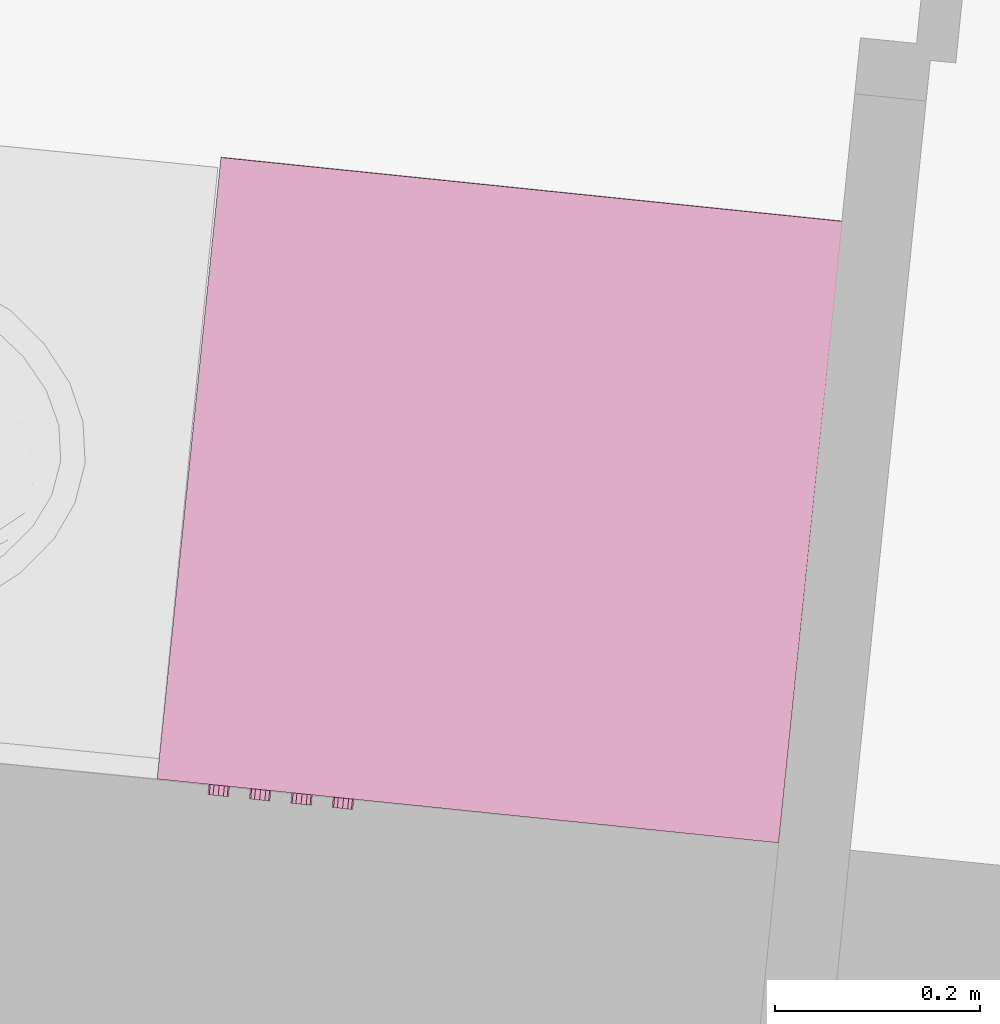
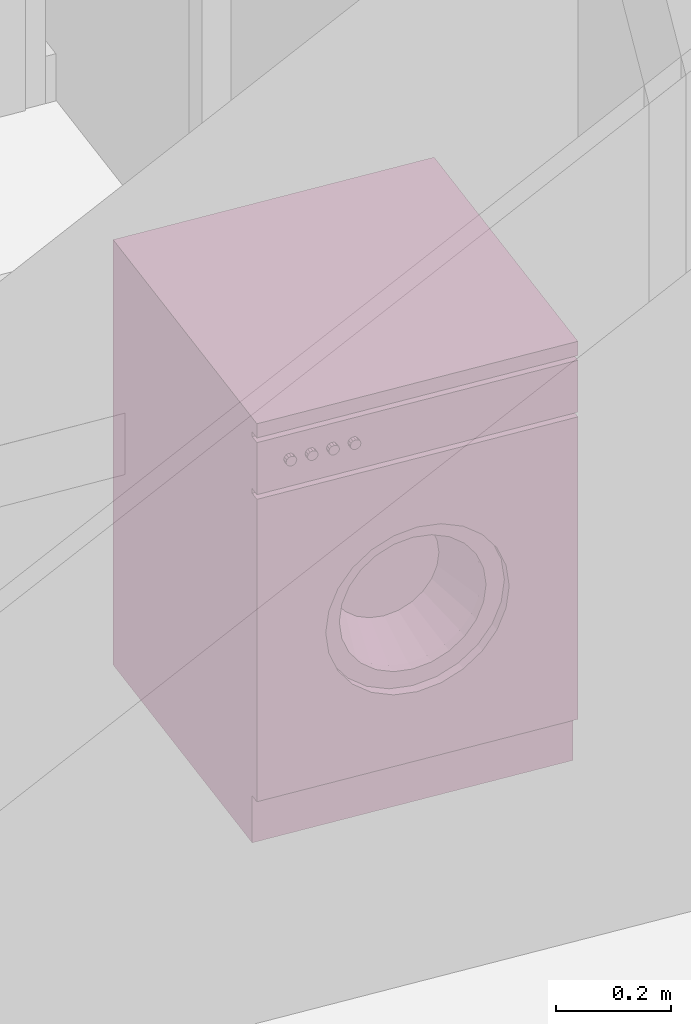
# One storey, part 136 of 171: 1 furnishing.
"""IFC2X3 building model written with IfcOpenShell, lengths in millimetres."""

from ifc_helpers import new_model, entity, si_unit, converted_unit, derived_unit, money_unit, direction, frame, origin_with_axes, place, context, subcontext, project, spatial, open_shell, faceted_brep, surface_model, source, transform, mapped, type_object, element, save


model = new_model("IFC2X3")

# Units and contexts
model_context = context("Model", 3, precision=0.01, world=origin_with_axes(), true_north=direction((0.0, 1.0)))
body_context = subcontext(model_context, "Body", "Model", "MODEL_VIEW")
ifc_project = project(units=[si_unit("LENGTHUNIT", "METRE", prefix="MILLI"), si_unit("AREAUNIT", "SQUARE_METRE"), si_unit("VOLUMEUNIT", "CUBIC_METRE"), converted_unit("PLANEANGLEUNIT", "DEGREE", entity("IfcPlaneAngleMeasure", 0.0174532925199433), si_unit("PLANEANGLEUNIT", "RADIAN"), dimensions=[0, 0, 0, 0, 0, 0, 0]), money_unit("USD"), converted_unit("TIMEUNIT", "Year", entity("IfcTimeMeasure", 31557600.0), si_unit("TIMEUNIT", "SECOND"), dimensions=[0, 0, 1, 0, 0, 0, 0]), si_unit("MASSUNIT", "GRAM", prefix="KILO"), si_unit("THERMODYNAMICTEMPERATUREUNIT", "DEGREE_CELSIUS"), si_unit("LUMINOUSINTENSITYUNIT", "LUMEN"), si_unit("ENERGYUNIT", "JOULE", prefix="MEGA"), derived_unit("THERMALCONDUCTANCEUNIT", [(si_unit("POWERUNIT", "WATT"), 1), (si_unit("LENGTHUNIT", "METRE"), -1), (si_unit("THERMODYNAMICTEMPERATUREUNIT", "KELVIN"), -1)]), derived_unit("SPECIFICHEATCAPACITYUNIT", [(si_unit("ENERGYUNIT", "JOULE"), 1), (si_unit("MASSUNIT", "GRAM", prefix="KILO"), -1), (si_unit("THERMODYNAMICTEMPERATUREUNIT", "KELVIN"), -1)]), derived_unit("MASSDENSITYUNIT", [(si_unit("MASSUNIT", "GRAM", prefix="KILO"), 1), (si_unit("VOLUMEUNIT", "CUBIC_METRE"), -1)])], contexts=[model_context])

# Site, building, storey
site_placement = place(None, origin_with_axes())
site = spatial("IfcSite", under=ifc_project, at=site_placement, Name="Site", CompositionType="ELEMENT")
building_placement = place(site_placement, origin_with_axes())
building = spatial("IfcBuilding", under=site, at=building_placement, Name="Bâtiment", CompositionType="ELEMENT")
storey_placement = place(building_placement, frame((0.0, 0.0, 3000.0), z_axis=(0.0, 0.0, 1.0), x_axis=(1.0, 0.0, 0.0)))
storey = spatial("IfcBuildingStorey", under=building, at=storey_placement, Name="rdc", CompositionType="ELEMENT", Elevation=3000.0)

# Furnishing
furnishing_element_type = type_object("IfcFurnishingElementType", Name="Machine à laver")
shared_shape = source(origin_with_axes(), body_context, "Body", "SurfaceModel", [
    faceted_brep([(0.0, 20.33333333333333, 100.0), (610.0, 20.33333333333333, 100.0), (610.0, 0.0, 100.0), (0.0, 0.0, 100.0), (0.0, 20.33333333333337, 740.0), (610.0, 20.33333333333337, 740.0), (479.2857142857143, 20.33333333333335, 420.0000000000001), (473.3470725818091, 20.33333333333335, 465.1084621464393), (455.935856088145, 20.33333333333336, 507.1428571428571), (428.2386104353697, 20.33333333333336, 543.2386104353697), (392.1428571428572, 20.33333333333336, 570.935856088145), (350.1084621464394, 20.33333333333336, 588.347072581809), (305.0000000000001, 20.33333333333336, 594.2857142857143), (259.8915378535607, 20.33333333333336, 588.347072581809), (217.8571428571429, 20.33333333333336, 570.9358560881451), (181.7613895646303, 20.33333333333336, 543.2386104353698), (154.0641439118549, 20.33333333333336, 507.1428571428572), (136.6529274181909, 20.33333333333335, 465.1084621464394), (130.7142857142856, 20.33333333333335, 420.0000000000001), (136.6529274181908, 20.33333333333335, 374.8915378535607), (154.0641439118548, 20.33333333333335, 332.8571428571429), (181.7613895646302, 20.33333333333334, 296.7613895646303), (217.8571428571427, 20.33333333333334, 269.064143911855), (259.8915378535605, 20.33333333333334, 251.6529274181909), (304.9999999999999, 20.33333333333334, 245.7142857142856), (350.1084621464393, 20.33333333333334, 251.6529274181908), (392.1428571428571, 20.33333333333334, 269.0641439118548), (428.2386104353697, 20.33333333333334, 296.7613895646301), (455.935856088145, 20.33333333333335, 332.8571428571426), (473.3470725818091, 20.33333333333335, 374.8915378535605), (610.0, 0.0, 740.0), (0.0, 0.0, 740.0), (479.2857142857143, 0.0, 420.0000000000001), (473.3470725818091, 0.0, 374.8915378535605), (455.935856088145, 0.0, 332.8571428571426), (428.2386104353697, 0.0, 296.7613895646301), (392.1428571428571, 0.0, 269.0641439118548), (350.1084621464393, 0.0, 251.6529274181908), (304.9999999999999, 0.0, 245.7142857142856), (259.8915378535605, 0.0, 251.6529274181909), (217.8571428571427, 0.0, 269.064143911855), (181.7613895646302, 0.0, 296.7613895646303), (154.0641439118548, 0.0, 332.8571428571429), (136.6529274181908, 0.0, 374.8915378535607), (130.7142857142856, 0.0, 420.0000000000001), (136.6529274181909, 0.0, 465.1084621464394), (154.0641439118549, 0.0, 507.1428571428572), (181.7613895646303, 0.0, 543.2386104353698), (217.8571428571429, 0.0, 570.9358560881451), (259.8915378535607, 0.0, 588.347072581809), (305.0000000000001, 0.0, 594.2857142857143), (350.1084621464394, 0.0, 588.347072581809), (392.1428571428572, 0.0, 570.935856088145), (428.2386104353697, 0.0, 543.2386104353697), (455.935856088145, 0.0, 507.1428571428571), (473.3470725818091, 0.0, 465.1084621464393)], [[[0, 1, 2, 3]], [[0, 4, 5, 1], [6, 7, 8, 9, 10, 11, 12, 13, 14, 15, 16, 17, 18, 19, 20, 21, 22, 23, 24, 25, 26, 27, 28, 29]], [[1, 5, 30, 2]], [[3, 2, 30, 31], [32, 33, 34, 35, 36, 37, 38, 39, 40, 41, 42, 43, 44, 45, 46, 47, 48, 49, 50, 51, 52, 53, 54, 55]], [[4, 0, 3, 31]], [[5, 4, 31, 30]], [[7, 6, 32, 55]], [[8, 7, 55, 54]], [[9, 8, 54, 53]], [[10, 9, 53, 52]], [[11, 10, 52, 51]], [[12, 11, 51, 50]], [[13, 12, 50, 49]], [[14, 13, 49, 48]], [[15, 14, 48, 47]], [[16, 15, 47, 46]], [[17, 16, 46, 45]], [[18, 17, 45, 44]], [[19, 18, 44, 43]], [[20, 19, 43, 42]], [[21, 20, 42, 41]], [[22, 21, 41, 40]], [[23, 22, 40, 39]], [[24, 23, 39, 38]], [[25, 24, 38, 37]], [[26, 25, 37, 36]], [[27, 26, 36, 35]], [[28, 27, 35, 34]], [[29, 28, 34, 33]], [[6, 29, 33, 32]]]),
    faceted_brep([(479.2857142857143, 40.66666666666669, 420.0000000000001), (473.3470725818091, 40.66666666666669, 465.1084621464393), (473.3470725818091, 20.33333333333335, 465.1084621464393), (479.2857142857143, 20.33333333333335, 420.0000000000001), (473.3470725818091, 40.66666666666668, 374.8915378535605), (455.935856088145, 40.66666666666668, 332.8571428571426), (428.2386104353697, 40.66666666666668, 296.7613895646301), (392.1428571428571, 40.66666666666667, 269.0641439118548), (350.1084621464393, 40.66666666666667, 251.6529274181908), (304.9999999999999, 40.66666666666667, 245.7142857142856), (259.8915378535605, 40.66666666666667, 251.6529274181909), (217.8571428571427, 40.66666666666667, 269.064143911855), (181.7613895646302, 40.66666666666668, 296.7613895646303), (154.0641439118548, 40.66666666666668, 332.8571428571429), (136.6529274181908, 40.66666666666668, 374.8915378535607), (130.7142857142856, 40.66666666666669, 420.0000000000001), (136.6529274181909, 40.66666666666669, 465.1084621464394), (154.0641439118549, 40.66666666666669, 507.1428571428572), (181.7613895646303, 40.66666666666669, 543.2386104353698), (217.8571428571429, 40.66666666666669, 570.9358560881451), (259.8915378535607, 40.66666666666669, 588.347072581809), (305.0000000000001, 40.66666666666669, 594.2857142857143), (350.1084621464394, 40.66666666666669, 588.347072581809), (392.1428571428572, 40.66666666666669, 570.935856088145), (428.2386104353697, 40.66666666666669, 543.2386104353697), (455.935856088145, 40.66666666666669, 507.1428571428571), (444.4285714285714, 40.66666666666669, 420.0000000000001), (439.6776580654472, 40.66666666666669, 456.0867697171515), (425.748684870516, 40.66666666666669, 489.7142857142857), (403.5908883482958, 40.66666666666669, 518.5908883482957), (374.7142857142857, 40.66666666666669, 540.748684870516), (341.0867697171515, 40.66666666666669, 554.6776580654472), (305.0000000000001, 40.66666666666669, 559.4285714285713), (268.9132302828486, 40.66666666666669, 554.6776580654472), (235.2857142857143, 40.66666666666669, 540.7486848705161), (206.4091116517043, 40.66666666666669, 518.5908883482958), (184.251315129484, 40.66666666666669, 489.7142857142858), (170.3223419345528, 40.66666666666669, 456.0867697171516), (165.5714285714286, 40.66666666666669, 420.0000000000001), (170.3223419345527, 40.66666666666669, 383.9132302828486), (184.2513151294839, 40.66666666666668, 350.2857142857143), (206.4091116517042, 40.66666666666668, 321.4091116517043), (235.2857142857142, 40.66666666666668, 299.251315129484), (268.9132302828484, 40.66666666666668, 285.3223419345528), (304.9999999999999, 40.66666666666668, 280.5714285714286), (341.0867697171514, 40.66666666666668, 285.3223419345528), (374.7142857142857, 40.66666666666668, 299.2513151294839), (403.5908883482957, 40.66666666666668, 321.4091116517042), (425.748684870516, 40.66666666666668, 350.2857142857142), (439.6776580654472, 40.66666666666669, 383.9132302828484), (455.935856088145, 20.33333333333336, 507.1428571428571), (428.2386104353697, 20.33333333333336, 543.2386104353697), (392.1428571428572, 20.33333333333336, 570.935856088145), (350.1084621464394, 20.33333333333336, 588.347072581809), (305.0000000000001, 20.33333333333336, 594.2857142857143), (259.8915378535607, 20.33333333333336, 588.347072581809), (217.8571428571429, 20.33333333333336, 570.9358560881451), (181.7613895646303, 20.33333333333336, 543.2386104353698), (154.0641439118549, 20.33333333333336, 507.1428571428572), (136.6529274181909, 20.33333333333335, 465.1084621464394), (130.7142857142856, 20.33333333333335, 420.0000000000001), (136.6529274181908, 20.33333333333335, 374.8915378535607), (154.0641439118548, 20.33333333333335, 332.8571428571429), (181.7613895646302, 20.33333333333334, 296.7613895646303), (217.8571428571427, 20.33333333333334, 269.064143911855), (259.8915378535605, 20.33333333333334, 251.6529274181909), (304.9999999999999, 20.33333333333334, 245.7142857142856), (350.1084621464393, 20.33333333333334, 251.6529274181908), (392.1428571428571, 20.33333333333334, 269.0641439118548), (428.2386104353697, 20.33333333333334, 296.7613895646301), (455.935856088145, 20.33333333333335, 332.8571428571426), (473.3470725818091, 20.33333333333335, 374.8915378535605), (444.4285714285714, 20.33333333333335, 420.0000000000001), (439.6776580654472, 20.33333333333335, 383.9132302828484), (425.748684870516, 20.33333333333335, 350.2857142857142), (403.5908883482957, 20.33333333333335, 321.4091116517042), (374.7142857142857, 20.33333333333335, 299.2513151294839), (341.0867697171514, 20.33333333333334, 285.3223419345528), (304.9999999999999, 20.33333333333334, 280.5714285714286), (268.9132302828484, 20.33333333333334, 285.3223419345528), (235.2857142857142, 20.33333333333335, 299.251315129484), (206.4091116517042, 20.33333333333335, 321.4091116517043), (184.2513151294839, 20.33333333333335, 350.2857142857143), (170.3223419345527, 20.33333333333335, 383.9132302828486), (165.5714285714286, 20.33333333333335, 420.0000000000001), (170.3223419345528, 20.33333333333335, 456.0867697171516), (184.251315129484, 20.33333333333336, 489.7142857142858), (206.4091116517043, 20.33333333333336, 518.5908883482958), (235.2857142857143, 20.33333333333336, 540.7486848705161), (268.9132302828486, 20.33333333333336, 554.6776580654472), (305.0000000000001, 20.33333333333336, 559.4285714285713), (341.0867697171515, 20.33333333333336, 554.6776580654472), (374.7142857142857, 20.33333333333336, 540.748684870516), (403.5908883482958, 20.33333333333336, 518.5908883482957), (425.748684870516, 20.33333333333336, 489.7142857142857), (439.6776580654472, 20.33333333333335, 456.0867697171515)], [[[0, 1, 2, 3]], [[0, 4, 5, 6, 7, 8, 9, 10, 11, 12, 13, 14, 15, 16, 17, 18, 19, 20, 21, 22, 23, 24, 25, 1], [26, 27, 28, 29, 30, 31, 32, 33, 34, 35, 36, 37, 38, 39, 40, 41, 42, 43, 44, 45, 46, 47, 48, 49]], [[1, 25, 50, 2]], [[3, 2, 50, 51, 52, 53, 54, 55, 56, 57, 58, 59, 60, 61, 62, 63, 64, 65, 66, 67, 68, 69, 70, 71], [72, 73, 74, 75, 76, 77, 78, 79, 80, 81, 82, 83, 84, 85, 86, 87, 88, 89, 90, 91, 92, 93, 94, 95]], [[4, 0, 3, 71]], [[5, 4, 71, 70]], [[6, 5, 70, 69]], [[7, 6, 69, 68]], [[8, 7, 68, 67]], [[9, 8, 67, 66]], [[10, 9, 66, 65]], [[11, 10, 65, 64]], [[12, 11, 64, 63]], [[13, 12, 63, 62]], [[14, 13, 62, 61]], [[15, 14, 61, 60]], [[16, 15, 60, 59]], [[17, 16, 59, 58]], [[18, 17, 58, 57]], [[19, 18, 57, 56]], [[20, 19, 56, 55]], [[21, 20, 55, 54]], [[22, 21, 54, 53]], [[23, 22, 53, 52]], [[24, 23, 52, 51]], [[25, 24, 51, 50]], [[27, 26, 72, 95]], [[28, 27, 95, 94]], [[29, 28, 94, 93]], [[30, 29, 93, 92]], [[31, 30, 92, 91]], [[32, 31, 91, 90]], [[33, 32, 90, 89]], [[34, 33, 89, 88]], [[35, 34, 88, 87]], [[36, 35, 87, 86]], [[37, 36, 86, 85]], [[38, 37, 85, 84]], [[39, 38, 84, 83]], [[40, 39, 83, 82]], [[41, 40, 82, 81]], [[42, 41, 81, 80]], [[43, 42, 80, 79]], [[44, 43, 79, 78]], [[45, 44, 78, 77]], [[46, 45, 77, 76]], [[47, 46, 76, 75]], [[48, 47, 75, 74]], [[49, 48, 74, 73]], [[26, 49, 73, 72]]]),
    surface_model("IfcShellBasedSurfaceModel", [(268.9132302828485, 40.6666666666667, 554.6776580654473), (305.0, 40.6666666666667, 559.4285714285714), (305.0, 142.3333333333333, 524.5714285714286), (277.9349227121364, 142.3333333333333, 521.0082435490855), (341.0867697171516, 40.6666666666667, 554.6776580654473), (332.0650772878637, 142.3333333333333, 521.0082435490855), (357.2857142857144, 142.3333333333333, 510.5615136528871), (378.9431662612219, 142.3333333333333, 493.9431662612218), (395.5615136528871, 142.3333333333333, 472.2857142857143), (406.0082435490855, 142.3333333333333, 447.0650772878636), (409.5714285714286, 142.3333333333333, 420.0), (406.0082435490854, 142.3333333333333, 392.9349227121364), (395.561513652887, 142.3333333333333, 367.7142857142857), (378.9431662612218, 142.3333333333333, 346.0568337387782), (357.2857142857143, 142.3333333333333, 329.438486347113), (332.0650772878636, 142.3333333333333, 318.9917564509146), (304.9999999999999, 142.3333333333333, 315.4285714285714), (277.9349227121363, 142.3333333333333, 318.9917564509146), (252.7142857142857, 142.3333333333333, 329.438486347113), (231.0568337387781, 142.3333333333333, 346.0568337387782), (214.4384863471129, 142.3333333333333, 367.7142857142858), (203.9917564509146, 142.3333333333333, 392.9349227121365), (200.4285714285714, 142.3333333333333, 420.0000000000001), (203.9917564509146, 142.3333333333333, 447.0650772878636), (214.438486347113, 142.3333333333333, 472.2857142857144), (231.0568337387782, 142.3333333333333, 493.9431662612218), (252.7142857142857, 142.3333333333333, 510.5615136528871), (235.2857142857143, 40.6666666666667, 540.7486848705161), (374.7142857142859, 40.6666666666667, 540.7486848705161), (403.5908883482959, 40.66666666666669, 518.5908883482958), (425.7486848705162, 40.66666666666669, 489.7142857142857), (439.6776580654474, 40.66666666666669, 456.0867697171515), (444.4285714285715, 40.66666666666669, 419.9999999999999), (439.6776580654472, 40.66666666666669, 383.9132302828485), (425.748684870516, 40.66666666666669, 350.2857142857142), (403.5908883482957, 40.66666666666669, 321.4091116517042), (374.7142857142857, 40.66666666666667, 299.2513151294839), (341.0867697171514, 40.66666666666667, 285.3223419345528), (304.9999999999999, 40.66666666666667, 280.5714285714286), (268.9132302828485, 40.66666666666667, 285.3223419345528), (235.2857142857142, 40.66666666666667, 299.251315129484), (206.4091116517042, 40.66666666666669, 321.4091116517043), (184.2513151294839, 40.66666666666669, 350.2857142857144), (170.3223419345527, 40.66666666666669, 383.9132302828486), (165.5714285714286, 40.66666666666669, 420.0000000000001), (170.3223419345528, 40.66666666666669, 456.0867697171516), (184.251315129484, 40.66666666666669, 489.7142857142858), (206.4091116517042, 40.66666666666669, 518.5908883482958)], [open_shell([[[0, 1, 2, 3]], [[1, 4, 5, 2]], [[2, 5, 6, 7, 8, 9, 10, 11, 12, 13, 14, 15, 16, 17, 18, 19, 20, 21, 22, 23, 24, 25, 26, 3]], [[27, 0, 3, 26]], [[4, 28, 6, 5]], [[28, 29, 7, 6]], [[29, 30, 8, 7]], [[30, 31, 9, 8]], [[31, 32, 10, 9]], [[32, 33, 11, 10]], [[33, 34, 12, 11]], [[34, 35, 13, 12]], [[35, 36, 14, 13]], [[36, 37, 15, 14]], [[37, 38, 16, 15]], [[38, 39, 17, 16]], [[39, 40, 18, 17]], [[40, 41, 19, 18]], [[41, 42, 20, 19]], [[42, 43, 21, 20]], [[43, 44, 22, 21]], [[44, 45, 23, 22]], [[45, 46, 24, 23]], [[46, 47, 25, 24]], [[47, 27, 26, 25]]])]),
    surface_model("IfcShellBasedSurfaceModel", [(0.0, 20.33333333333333, 100.0), (0.0, 20.33333333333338, 870.0), (0.0, 610.0, 870.0), (0.0, 610.0, 99.99999999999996)], [open_shell([[[0, 1, 2, 3]]])]),
    surface_model("IfcShellBasedSurfaceModel", [(610.0, 20.33333333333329, 100.0), (610.0, 20.33333333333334, 870.0), (610.0, 610.0, 870.0), (610.0, 610.0, 99.99999999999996)], [open_shell([[[0, 1, 2, 3]]])]),
    surface_model("IfcShellBasedSurfaceModel", [(0.0, 610.0, 100.0), (0.0, 610.0, 870.0), (610.0, 610.0, 870.0), (610.0, 610.0, 100.0)], [open_shell([[[0, 1, 2, 3]]])]),
    faceted_brep([(0.0, 20.33333333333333, 0.0), (610.0, 20.33333333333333, 0.0), (610.0, 20.33333333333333, 100.0), (0.0, 20.33333333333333, 100.0), (0.0, 610.3333333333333, 0.0), (610.0, 610.3333333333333, 0.0), (610.0, 610.3333333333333, 100.0), (0.0, 610.3333333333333, 100.0)], [[[0, 1, 2, 3]], [[0, 4, 5, 1]], [[1, 5, 6, 2]], [[3, 2, 6, 7]], [[4, 0, 3, 7]], [[5, 4, 7, 6]]]),
    faceted_brep([(0.0, 20.33333333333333, 750.0), (610.0, 20.33333333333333, 750.0), (610.0, 0.0, 750.0), (0.0, 0.0, 750.0), (0.0, 20.33333333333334, 860.0), (610.0, 20.33333333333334, 860.0), (610.0, 0.0, 860.0), (0.0, 0.0, 860.0)], [[[0, 1, 2, 3]], [[0, 4, 5, 1]], [[1, 5, 6, 2]], [[3, 2, 6, 7]], [[4, 0, 3, 7]], [[5, 4, 7, 6]]]),
    surface_model("IfcShellBasedSurfaceModel", [(0.0, 20.33333333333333, 739.8333333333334), (0.0, 20.33333333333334, 869.8333333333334), (610.0, 20.33333333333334, 869.8333333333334), (610.0, 20.33333333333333, 739.8333333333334)], [open_shell([[[0, 1, 2, 3]]])]),
    faceted_brep([(0.0, 0.0, 870.0), (610.0, 0.0, 870.0), (610.0, 0.0, 900.0), (0.0, 0.0, 900.0), (0.0, 610.0, 870.0), (610.0, 610.0, 870.0), (610.0, 610.0, 900.0), (0.0, 610.0, 900.0)], [[[0, 1, 2, 3]], [[0, 4, 5, 1]], [[1, 5, 6, 2]], [[3, 2, 6, 7]], [[4, 0, 3, 7]], [[5, 4, 7, 6]]]),
    faceted_brep([(69.80459160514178, 0.0, 804.9166666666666), (66.08333333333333, 0.0, 801.1954083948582), (60.99999999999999, 0.0, 799.8333333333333), (55.91666666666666, 0.0, 801.1954083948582), (52.1954083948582, 0.0, 804.9166666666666), (50.83333333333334, 0.0, 809.9999999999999), (52.19540839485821, 0.0, 815.0833333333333), (55.91666666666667, 0.0, 818.8045916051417), (61.0, 0.0, 820.1666666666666), (66.08333333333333, 0.0, 818.8045916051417), (69.8045916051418, 0.0, 815.0833333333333), (71.16666666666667, 0.0, 809.9999999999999), (69.80459160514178, -10.16666666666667, 804.9166666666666), (66.08333333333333, -10.16666666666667, 801.1954083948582), (60.99999999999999, -10.16666666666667, 799.8333333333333), (55.91666666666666, -10.16666666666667, 801.1954083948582), (52.1954083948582, -10.16666666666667, 804.9166666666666), (50.83333333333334, -10.16666666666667, 809.9999999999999), (52.19540839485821, -10.16666666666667, 815.0833333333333), (55.91666666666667, -10.16666666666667, 818.8045916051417), (61.0, -10.16666666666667, 820.1666666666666), (66.08333333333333, -10.16666666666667, 818.8045916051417), (69.8045916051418, -10.16666666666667, 815.0833333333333), (71.16666666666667, -10.16666666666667, 809.9999999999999)], [[[0, 1, 2, 3, 4, 5, 6, 7, 8, 9, 10, 11]], [[1, 0, 12, 13]], [[2, 1, 13, 14]], [[3, 2, 14, 15]], [[4, 3, 15, 16]], [[5, 4, 16, 17]], [[6, 5, 17, 18]], [[7, 6, 18, 19]], [[8, 7, 19, 20]], [[9, 8, 20, 21]], [[10, 9, 21, 22]], [[11, 10, 22, 23]], [[0, 11, 23, 12]], [[12, 23, 22, 21, 20, 19, 18, 17, 16, 15, 14, 13]]]),
    faceted_brep([(110.4712582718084, 0.0, 804.9166666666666), (106.75, 0.0, 801.1954083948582), (101.6666666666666, 0.0, 799.8333333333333), (96.58333333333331, 0.0, 801.1954083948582), (92.86207506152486, 0.0, 804.9166666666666), (91.49999999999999, 0.0, 809.9999999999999), (92.86207506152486, 0.0, 815.0833333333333), (96.58333333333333, 0.0, 818.8045916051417), (101.6666666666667, 0.0, 820.1666666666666), (106.75, 0.0, 818.8045916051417), (110.4712582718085, 0.0, 815.0833333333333), (111.8333333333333, 0.0, 809.9999999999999), (110.4712582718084, -10.16666666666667, 804.9166666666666), (106.75, -10.16666666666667, 801.1954083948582), (101.6666666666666, -10.16666666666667, 799.8333333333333), (96.58333333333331, -10.16666666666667, 801.1954083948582), (92.86207506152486, -10.16666666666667, 804.9166666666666), (91.49999999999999, -10.16666666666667, 809.9999999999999), (92.86207506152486, -10.16666666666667, 815.0833333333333), (96.58333333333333, -10.16666666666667, 818.8045916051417), (101.6666666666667, -10.16666666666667, 820.1666666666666), (106.75, -10.16666666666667, 818.8045916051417), (110.4712582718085, -10.16666666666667, 815.0833333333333), (111.8333333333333, -10.16666666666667, 809.9999999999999)], [[[0, 1, 2, 3, 4, 5, 6, 7, 8, 9, 10, 11]], [[1, 0, 12, 13]], [[2, 1, 13, 14]], [[3, 2, 14, 15]], [[4, 3, 15, 16]], [[5, 4, 16, 17]], [[6, 5, 17, 18]], [[7, 6, 18, 19]], [[8, 7, 19, 20]], [[9, 8, 20, 21]], [[10, 9, 21, 22]], [[11, 10, 22, 23]], [[0, 11, 23, 12]], [[12, 23, 22, 21, 20, 19, 18, 17, 16, 15, 14, 13]]]),
    faceted_brep([(151.1379249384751, 0.0, 804.9166666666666), (147.4166666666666, 0.0, 801.1954083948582), (142.3333333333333, 0.0, 799.8333333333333), (137.25, 0.0, 801.1954083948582), (133.5287417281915, 0.0, 804.9166666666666), (132.1666666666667, 0.0, 809.9999999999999), (133.5287417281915, 0.0, 815.0833333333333), (137.25, 0.0, 818.8045916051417), (142.3333333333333, 0.0, 820.1666666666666), (147.4166666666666, 0.0, 818.8045916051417), (151.1379249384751, 0.0, 815.0833333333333), (152.5, 0.0, 809.9999999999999), (151.1379249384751, -10.16666666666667, 804.9166666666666), (147.4166666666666, -10.16666666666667, 801.1954083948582), (142.3333333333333, -10.16666666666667, 799.8333333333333), (137.25, -10.16666666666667, 801.1954083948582), (133.5287417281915, -10.16666666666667, 804.9166666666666), (132.1666666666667, -10.16666666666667, 809.9999999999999), (133.5287417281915, -10.16666666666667, 815.0833333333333), (137.25, -10.16666666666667, 818.8045916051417), (142.3333333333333, -10.16666666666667, 820.1666666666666), (147.4166666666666, -10.16666666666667, 818.8045916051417), (151.1379249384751, -10.16666666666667, 815.0833333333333), (152.5, -10.16666666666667, 809.9999999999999)], [[[0, 1, 2, 3, 4, 5, 6, 7, 8, 9, 10, 11]], [[1, 0, 12, 13]], [[2, 1, 13, 14]], [[3, 2, 14, 15]], [[4, 3, 15, 16]], [[5, 4, 16, 17]], [[6, 5, 17, 18]], [[7, 6, 18, 19]], [[8, 7, 19, 20]], [[9, 8, 20, 21]], [[10, 9, 21, 22]], [[11, 10, 22, 23]], [[0, 11, 23, 12]], [[12, 23, 22, 21, 20, 19, 18, 17, 16, 15, 14, 13]]]),
    faceted_brep([(191.8045916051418, 0.0, 804.9166666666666), (188.0833333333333, 0.0, 801.1954083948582), (183.0, 0.0, 799.8333333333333), (177.9166666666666, 0.0, 801.1954083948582), (174.1954083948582, 0.0, 804.9166666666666), (172.8333333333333, 0.0, 809.9999999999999), (174.1954083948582, 0.0, 815.0833333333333), (177.9166666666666, 0.0, 818.8045916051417), (183.0, 0.0, 820.1666666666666), (188.0833333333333, 0.0, 818.8045916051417), (191.8045916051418, 0.0, 815.0833333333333), (193.1666666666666, 0.0, 809.9999999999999), (191.8045916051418, -10.16666666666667, 804.9166666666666), (188.0833333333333, -10.16666666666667, 801.1954083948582), (183.0, -10.16666666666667, 799.8333333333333), (177.9166666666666, -10.16666666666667, 801.1954083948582), (174.1954083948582, -10.16666666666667, 804.9166666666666), (172.8333333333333, -10.16666666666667, 809.9999999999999), (174.1954083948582, -10.16666666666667, 815.0833333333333), (177.9166666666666, -10.16666666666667, 818.8045916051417), (183.0, -10.16666666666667, 820.1666666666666), (188.0833333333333, -10.16666666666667, 818.8045916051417), (191.8045916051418, -10.16666666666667, 815.0833333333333), (193.1666666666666, -10.16666666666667, 809.9999999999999)], [[[0, 1, 2, 3, 4, 5, 6, 7, 8, 9, 10, 11]], [[1, 0, 12, 13]], [[2, 1, 13, 14]], [[3, 2, 14, 15]], [[4, 3, 15, 16]], [[5, 4, 16, 17]], [[6, 5, 17, 18]], [[7, 6, 18, 19]], [[8, 7, 19, 20]], [[9, 8, 20, 21]], [[10, 9, 21, 22]], [[11, 10, 22, 23]], [[0, 11, 23, 12]], [[12, 23, 22, 21, 20, 19, 18, 17, 16, 15, 14, 13]]]),
])
furnishing_placement = place(storey_placement, frame((2225562.504858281, -621314.5446208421, 0.0), z_axis=(0.0, 0.0, 1.0), x_axis=(0.9947605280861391, -0.1022325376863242, 0.0)))
element("IfcFurnishingElement", 1, at=furnishing_placement, inside=storey, type_object=furnishing_element_type, Name="Obj.-003", context=body_context, shape_type="MappedRepresentation", body=[
    mapped(shared_shape, transform((0.0, 0.0, 0.0))),
])

save(model, "model.ifc")
